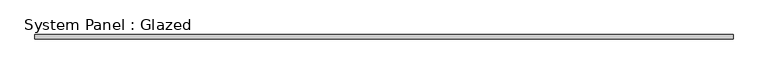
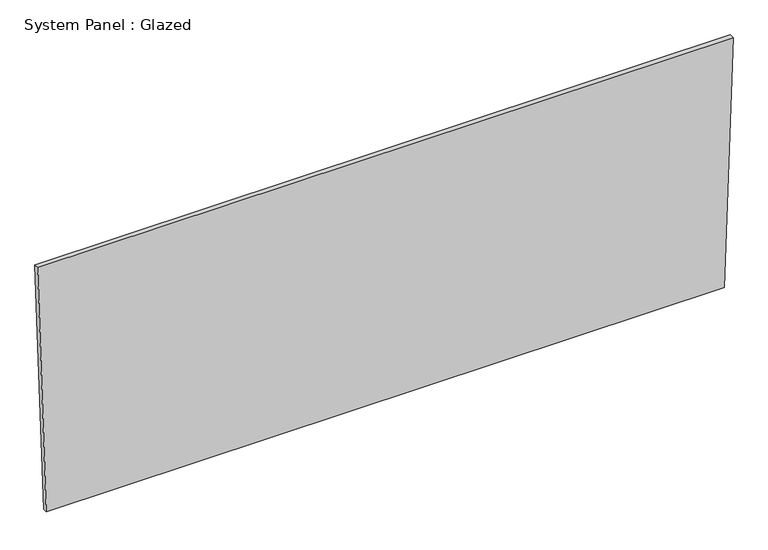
"""IFC4 building model written with IfcOpenShell, lengths in millimetres: plate geometry, System Panel : Glazed."""

from ifc_helpers import new_model, si_unit, frame, origin, place, context, project, spatial, polyline, outline, extrude, source, transform, mapped, element, save


def system_panel_glazed_9d9da8a2(model_context):
    return source(origin(), model_context, "Body", "SweptSolid", [
        extrude(outline(polyline([(0.0, -1893.785838), (0.0, 1893.785838), (1459.6689838, 1942.0094035), (1459.6689838, -1942.0094035), (0.0, -1893.785838)])), frame((0.0, -44.45, 0.0), z_axis=(0.0, 1.0, 0.0), x_axis=(0.0, 0.0, 1.0)), (0.0, 0.0, 1.0), 25.4),
    ])


if __name__ == "__main__":
    model = new_model("IFC4")
    model_context = context("Model", 3, world=origin())
    ifc_project = project(units=[si_unit("LENGTHUNIT", "METRE", prefix="MILLI")], contexts=[model_context])
    site = spatial("IfcSite", under=ifc_project)
    building = spatial("IfcBuilding", under=site)
    placement = place(None, origin())
    system_panel_glazed_shape = system_panel_glazed_9d9da8a2(model_context)
    element("IfcPlate", 1, ObjectType="System Panel : Glazed", at=placement, inside=building, context=model_context, shape_type="MappedRepresentation", body=[
        mapped(system_panel_glazed_shape, transform((0.0, 0.0, 0.0), x_axis=(1.0, 0.0, 0.0), y_axis=(0.0, 1.0, 0.0), z_axis=(0.0, 0.0, 1.0))),
    ])
    save(model, "model.ifc")
